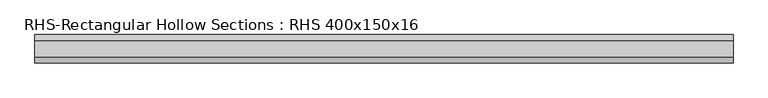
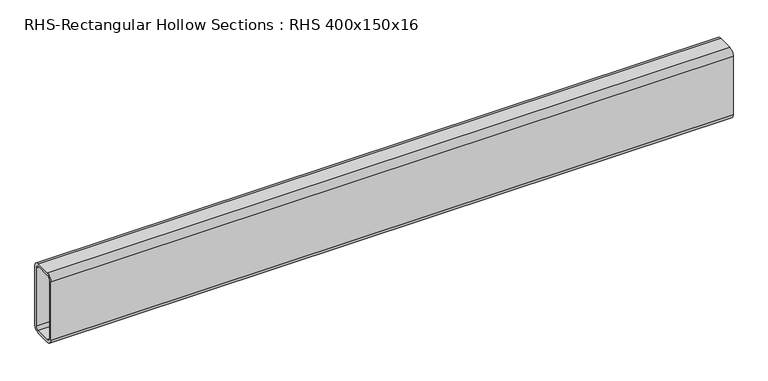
"""IFC4 building model written with IfcOpenShell, lengths in millimetres: beam geometry, RHS-Rectangular Hollow Sections : RHS 400x150x16."""

from ifc_helpers import new_model, si_unit, point, frame, frame_2d, origin, place, context, project, spatial, polyline, circle_curve, trimmed, segment, composite_curve, outline, extrude, source, transform, mapped, element, save


def rhs_rectangular_hollow_sections_rhs_400x150x16_f32051a2(model_context):
    return source(origin(), model_context, "Body", "SweptSolid", [
        extrude(outline(composite_curve([segment(polyline([(75.0, 168.0), (75.0, -168.0)]), True, "CONTINUOUS"), segment(trimmed(circle_curve(frame_2d((43.0, -168.0)), 32.0), [point((75.0, -168.0))], [point((43.0, -200.0))], False, "CARTESIAN"), True, "CONTINUOUS"), segment(polyline([(43.0, -200.0), (-43.0, -200.0)]), True, "CONTINUOUS"), segment(trimmed(circle_curve(frame_2d((-43.0, -168.0)), 32.0), [point((-43.0, -200.0))], [point((-75.0, -168.0))], False, "CARTESIAN"), True, "CONTINUOUS"), segment(polyline([(-75.0, -168.0), (-75.0, 168.0)]), True, "CONTINUOUS"), segment(trimmed(circle_curve(frame_2d((-43.0, 168.0)), 32.0), [point((-75.0, 168.0))], [point((-43.0, 200.0))], False, "CARTESIAN"), True, "CONTINUOUS"), segment(polyline([(-43.0, 200.0), (43.0, 200.0)]), True, "CONTINUOUS"), segment(trimmed(circle_curve(frame_2d((43.0, 168.0)), 32.0), [point((43.0, 200.0))], [point((75.0, 168.0))], False, "CARTESIAN"), True, "CONTINUOUS")], self_intersect=False), holes=[composite_curve([segment(trimmed(circle_curve(frame_2d((-43.0, 168.0)), 16.0), [point((-43.0, 184.0))], [point((-59.0, 168.0))], True, "CARTESIAN"), True, "CONTINUOUS"), segment(polyline([(-59.0, 168.0), (-59.0, -168.0)]), True, "CONTINUOUS"), segment(trimmed(circle_curve(frame_2d((-43.0, -168.0)), 16.0), [point((-59.0, -168.0))], [point((-43.0, -184.0))], True, "CARTESIAN"), True, "CONTINUOUS"), segment(polyline([(-43.0, -184.0), (43.0, -184.0)]), True, "CONTINUOUS"), segment(trimmed(circle_curve(frame_2d((43.0, -168.0)), 16.0), [point((43.0, -184.0))], [point((59.0, -168.0))], True, "CARTESIAN"), True, "CONTINUOUS"), segment(polyline([(59.0, -168.0), (59.0, 168.0)]), True, "CONTINUOUS"), segment(trimmed(circle_curve(frame_2d((43.0, 168.0)), 16.0), [point((59.0, 168.0))], [point((43.0, 184.0))], True, "CARTESIAN"), True, "CONTINUOUS"), segment(polyline([(43.0, 184.0), (-43.0, 184.0)]), True, "CONTINUOUS")], self_intersect=False)]), frame((-1858.0, 0.0, 0.0), z_axis=(1.0, 0.0, 0.0), x_axis=(0.0, 1.0, 0.0)), (0.0, 0.0, 1.0), 3716.0),
    ])


if __name__ == "__main__":
    model = new_model("IFC4")
    model_context = context("Model", 3, world=origin())
    ifc_project = project(units=[si_unit("LENGTHUNIT", "METRE", prefix="MILLI")], contexts=[model_context])
    site = spatial("IfcSite", under=ifc_project)
    building = spatial("IfcBuilding", under=site)
    placement = place(None, origin())
    rhs_rectangular_hollow_sections_rhs_400x150x16_shape = rhs_rectangular_hollow_sections_rhs_400x150x16_f32051a2(model_context)
    element("IfcBeam", 1, ObjectType="RHS-Rectangular Hollow Sections : RHS 400x150x16", at=placement, inside=building, context=model_context, shape_type="MappedRepresentation", body=[
        mapped(rhs_rectangular_hollow_sections_rhs_400x150x16_shape, transform((0.0, 0.0, 0.0), x_axis=(1.0, 0.0, 0.0), y_axis=(0.0, 1.0, 0.0), z_axis=(0.0, 0.0, 1.0))),
    ])
    save(model, "model.ifc")
